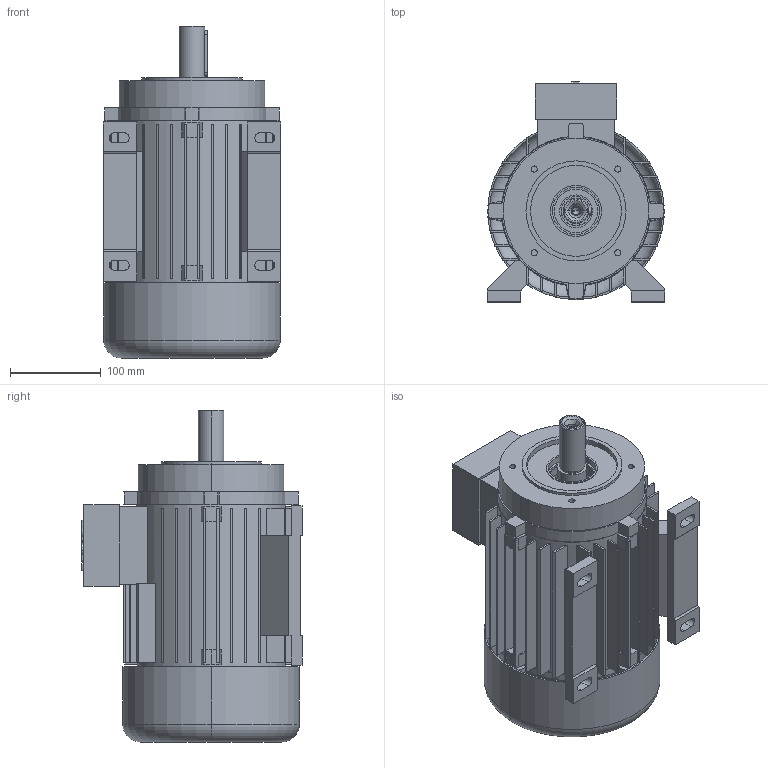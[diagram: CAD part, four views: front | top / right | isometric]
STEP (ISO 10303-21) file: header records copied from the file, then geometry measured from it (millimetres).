
FILE_DESCRIPTION (( 'STEP AP214' ), '1' );
FILE_NAME ('20.18273-F 5AZ 100 B34 small STANDK.STEP', '2018-07-18T08:02:32', ( '' ), ( '' ), 'SwSTEP 2.0', 'SolidWorks 2018', '' );
FILE_SCHEMA (( 'AUTOMOTIVE_DESIGN' ));
Length unit declared in the file: millimetre
Products named in the file (1): 20.18273-F 5AZ 100 B34 small STANDK
Bounding box: 195 x 242 x 365 mm (x, y, z)
Volume: 3612287.9 mm3; surface area: 1127408.3 mm2
Topology: 8 solids, 8 shells, 736 faces, 1920 edges, 1269 vertices
Faces by surface type: plane 510, cylinder 191, cone 18, bspline 9, torus 8
Entity records: 30982 total; most frequent: CARTESIAN_POINT 4133, DIRECTION 3960, ORIENTED_EDGE 3836, EDGE_CURVE 1918, AXIS2_PLACEMENT_3D 1344, VECTOR 1272, LINE 1272, VERTEX_POINT 1269
